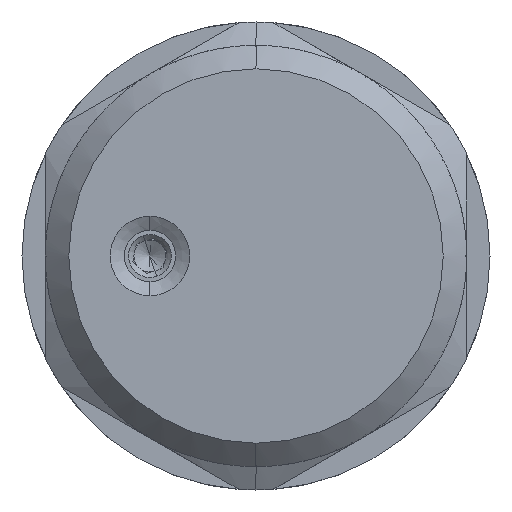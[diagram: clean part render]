
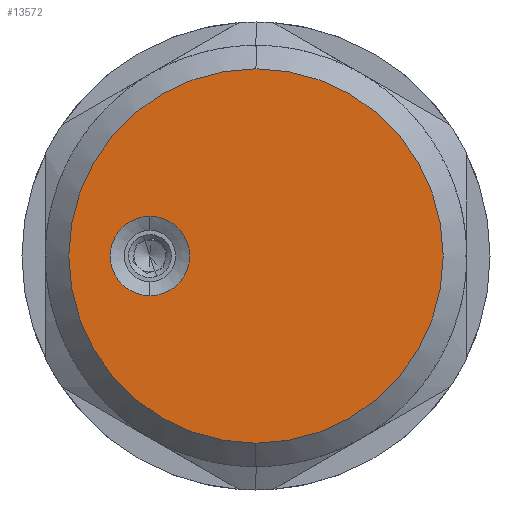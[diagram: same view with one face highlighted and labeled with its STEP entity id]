
A CAD part, left-side view. The second image highlights one B-rep face of the part: STEP entity #13572.
In plain terms, the highlighted planar face has unit normal (-1, 0, 0).
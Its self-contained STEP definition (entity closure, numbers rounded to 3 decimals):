
#340 = EDGE_CURVE ( 'NONE', #10846, #9964, #7670, .T. ) ;
#1120 = DIRECTION ( 'NONE',  ( -1., 0., 0. ) ) ;
#1410 = CARTESIAN_POINT ( 'NONE',  ( -23.1, 0., 0. ) ) ;
#1592 = CARTESIAN_POINT ( 'NONE',  ( -23.1, 0., 0. ) ) ;
#1667 = CARTESIAN_POINT ( 'NONE',  ( -23.1, 6.8, 0. ) ) ;
#3050 = CIRCLE ( 'NONE', #15902, 2.55 ) ;
#3122 = CARTESIAN_POINT ( 'NONE',  ( -23.1, 0., -12. ) ) ;
#3137 = EDGE_CURVE ( 'NONE', #9964, #10846, #5365, .T. ) ;
#5365 = CIRCLE ( 'NONE', #28626, 12. ) ;
#5748 = EDGE_CURVE ( 'NONE', #20748, #16303, #19178, .T. ) ;
#6236 = FACE_BOUND ( 'NONE', #22496, .T. ) ;
#7670 = CIRCLE ( 'NONE', #28927, 12. ) ;
#8344 = ORIENTED_EDGE ( 'NONE', *, *, #29689, .F. ) ;
#9114 = DIRECTION ( 'NONE',  ( -1., 0., 0. ) ) ;
#9793 = AXIS2_PLACEMENT_3D ( 'NONE', #1667, #9114, #20541 ) ;
#9964 = VERTEX_POINT ( 'NONE', #3122 ) ;
#10846 = VERTEX_POINT ( 'NONE', #27972 ) ;
#11235 = EDGE_LOOP ( 'NONE', ( #17838, #18013 ) ) ;
#12872 = DIRECTION ( 'NONE',  ( 0., 0., 1. ) ) ;
#12892 = PLANE ( 'NONE',  #30189 ) ;
#13197 = DIRECTION ( 'NONE',  ( 0., 0., 1. ) ) ;
#13362 = DIRECTION ( 'NONE',  ( -1., 0., 0. ) ) ;
#13572 = ADVANCED_FACE ( 'NONE', ( #17681, #6236 ), #12892, .T. ) ;
#13830 = DIRECTION ( 'NONE',  ( 0., 0., 1. ) ) ;
#15902 = AXIS2_PLACEMENT_3D ( 'NONE', #21128, #25628, #13830 ) ;
#16146 = CARTESIAN_POINT ( 'NONE',  ( -23.1, 6.8, -2.55 ) ) ;
#16303 = VERTEX_POINT ( 'NONE', #16146 ) ;
#17398 = DIRECTION ( 'NONE',  ( 0., 0., 1. ) ) ;
#17681 = FACE_OUTER_BOUND ( 'NONE', #11235, .T. ) ;
#17838 = ORIENTED_EDGE ( 'NONE', *, *, #3137, .T. ) ;
#18013 = ORIENTED_EDGE ( 'NONE', *, *, #340, .T. ) ;
#19178 = CIRCLE ( 'NONE', #9793, 2.55 ) ;
#20541 = DIRECTION ( 'NONE',  ( 0., 0., 1. ) ) ;
#20748 = VERTEX_POINT ( 'NONE', #29971 ) ;
#21128 = CARTESIAN_POINT ( 'NONE',  ( -23.1, 6.8, 0. ) ) ;
#22182 = DIRECTION ( 'NONE',  ( -1., 0., 0. ) ) ;
#22200 = CARTESIAN_POINT ( 'NONE',  ( -23.1, 0., 0. ) ) ;
#22496 = EDGE_LOOP ( 'NONE', ( #25288, #8344 ) ) ;
#25288 = ORIENTED_EDGE ( 'NONE', *, *, #5748, .F. ) ;
#25628 = DIRECTION ( 'NONE',  ( -1., 0., 0. ) ) ;
#27972 = CARTESIAN_POINT ( 'NONE',  ( -23.1, 0., 12. ) ) ;
#28626 = AXIS2_PLACEMENT_3D ( 'NONE', #1410, #22182, #12872 ) ;
#28927 = AXIS2_PLACEMENT_3D ( 'NONE', #22200, #1120, #13197 ) ;
#29689 = EDGE_CURVE ( 'NONE', #16303, #20748, #3050, .T. ) ;
#29971 = CARTESIAN_POINT ( 'NONE',  ( -23.1, 6.8, 2.55 ) ) ;
#30189 = AXIS2_PLACEMENT_3D ( 'NONE', #1592, #13362, #17398 ) ;
